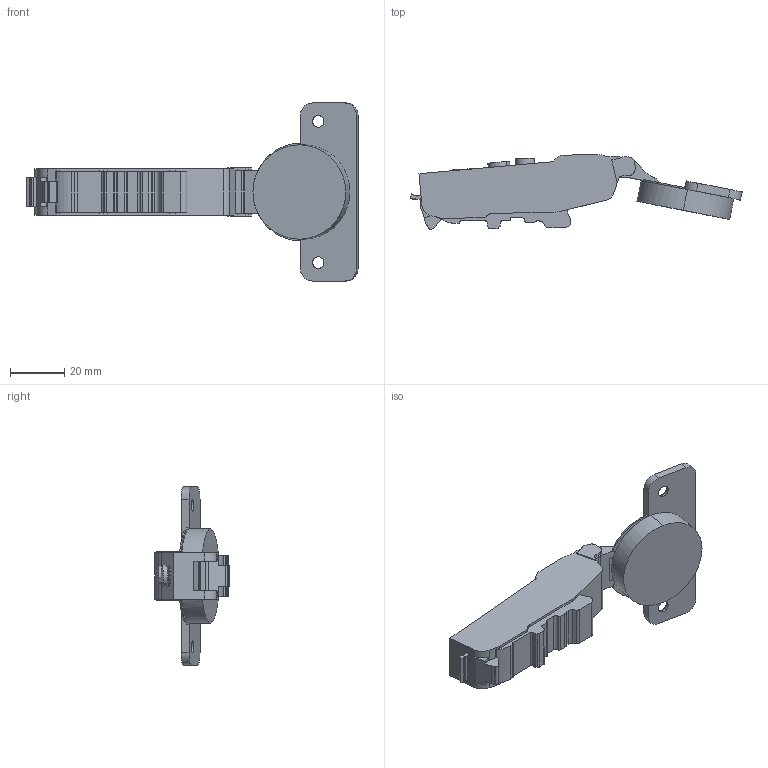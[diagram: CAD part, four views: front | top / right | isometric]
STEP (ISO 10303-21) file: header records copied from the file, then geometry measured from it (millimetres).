
FILE_DESCRIPTION (( 'STEP AP203' ), '1' );
FILE_NAME ('C81B8Q7FAB -DTC 3D open.STEP', '2024-11-29T08:50:06', ( '微软用户' ), ( '微软中国' ), 'SwSTEP 2.0', 'SolidWorks 2021', '' );
FILE_SCHEMA (( 'CONFIG_CONTROL_DESIGN' ));
Length unit declared in the file: millimetre
Products named in the file (1): C81B8Q7FAB -DTC 3D open
Bounding box: 122.29 x 27.6 x 65.6 mm (x, y, z)
Volume: 37274.3 mm3; surface area: 11814.9 mm2
Topology: 1 solids, 1 shells, 200 faces, 563 edges, 370 vertices
Faces by surface type: plane 93, cylinder 89, torus 12, cone 4, bspline 2
Entity records: 6605 total; most frequent: CARTESIAN_POINT 1205, DIRECTION 1149, ORIENTED_EDGE 1126, EDGE_CURVE 563, AXIS2_PLACEMENT_3D 406, VERTEX_POINT 370, LINE 337, VECTOR 337
